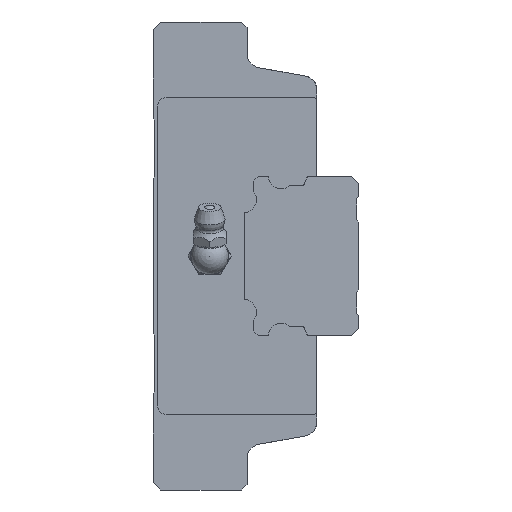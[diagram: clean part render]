
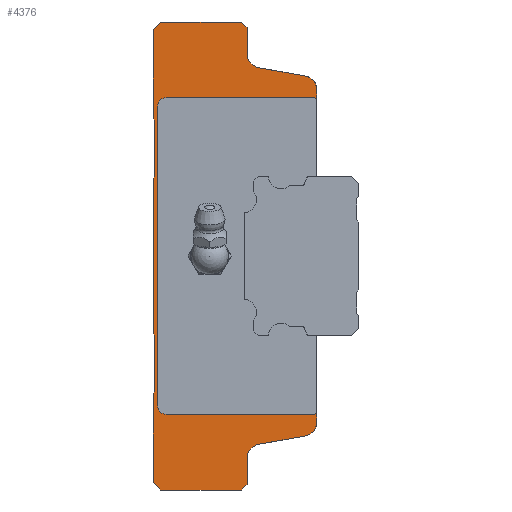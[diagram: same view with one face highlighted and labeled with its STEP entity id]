
A CAD part, left-side view. The second image highlights one B-rep face of the part: STEP entity #4376.
In plain terms, the highlighted planar face has unit normal (-1, 0, 0).
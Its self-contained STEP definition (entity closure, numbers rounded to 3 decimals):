
#190=CIRCLE('',#4688,3.);
#193=CIRCLE('',#4703,3.);
#211=CIRCLE('',#4730,3.);
#212=CIRCLE('',#4733,3.);
#258=CIRCLE('',#4806,1.8);
#259=CIRCLE('',#4807,1.8);
#1096=ORIENTED_EDGE('',*,*,#2092,.F.);
#1097=ORIENTED_EDGE('',*,*,#1923,.F.);
#1098=ORIENTED_EDGE('',*,*,#1919,.F.);
#1099=ORIENTED_EDGE('',*,*,#2035,.F.);
#1100=ORIENTED_EDGE('',*,*,#1916,.T.);
#1101=ORIENTED_EDGE('',*,*,#1835,.F.);
#1102=ORIENTED_EDGE('',*,*,#1832,.F.);
#1103=ORIENTED_EDGE('',*,*,#2026,.F.);
#1104=ORIENTED_EDGE('',*,*,#2014,.F.);
#1105=ORIENTED_EDGE('',*,*,#2083,.F.);
#1106=ORIENTED_EDGE('',*,*,#2080,.F.);
#1107=ORIENTED_EDGE('',*,*,#2077,.F.);
#1108=ORIENTED_EDGE('',*,*,#2074,.F.);
#1109=ORIENTED_EDGE('',*,*,#2071,.F.);
#1110=ORIENTED_EDGE('',*,*,#2068,.F.);
#1111=ORIENTED_EDGE('',*,*,#2065,.F.);
#1112=ORIENTED_EDGE('',*,*,#2062,.F.);
#1113=ORIENTED_EDGE('',*,*,#2059,.F.);
#1114=ORIENTED_EDGE('',*,*,#2056,.F.);
#1115=ORIENTED_EDGE('',*,*,#2049,.F.);
#1116=ORIENTED_EDGE('',*,*,#1811,.F.);
#1117=ORIENTED_EDGE('',*,*,#1808,.F.);
#1118=ORIENTED_EDGE('',*,*,#1891,.T.);
#1119=ORIENTED_EDGE('',*,*,#1881,.F.);
#1120=ORIENTED_EDGE('',*,*,#1866,.F.);
#1121=ORIENTED_EDGE('',*,*,#1939,.F.);
#1122=ORIENTED_EDGE('',*,*,#2093,.F.);
#1123=ORIENTED_EDGE('',*,*,#2094,.F.);
#1124=ORIENTED_EDGE('',*,*,#2095,.F.);
#1125=ORIENTED_EDGE('',*,*,#2096,.F.);
#1126=ORIENTED_EDGE('',*,*,#2097,.F.);
#1127=ORIENTED_EDGE('',*,*,#2098,.F.);
#1808=EDGE_CURVE('',#2389,#2387,#2813,.T.);
#1811=EDGE_CURVE('',#2387,#2391,#2816,.T.);
#1832=EDGE_CURVE('',#2411,#2409,#2829,.T.);
#1835=EDGE_CURVE('',#2409,#2413,#2832,.T.);
#1866=EDGE_CURVE('',#2431,#2432,#190,.T.);
#1881=EDGE_CURVE('',#2432,#2446,#2854,.T.);
#1891=EDGE_CURVE('',#2389,#2446,#193,.T.);
#1916=EDGE_CURVE('',#2471,#2413,#211,.T.);
#1919=EDGE_CURVE('',#2472,#2473,#212,.T.);
#1923=EDGE_CURVE('',#2473,#2476,#2863,.T.);
#1939=EDGE_CURVE('',#2487,#2431,#2876,.T.);
#2014=EDGE_CURVE('',#2558,#2559,#2913,.T.);
#2026=EDGE_CURVE('',#2559,#2411,#2925,.T.);
#2035=EDGE_CURVE('',#2471,#2472,#2934,.T.);
#2049=EDGE_CURVE('',#2391,#2580,#2947,.T.);
#2056=EDGE_CURVE('',#2580,#2584,#2954,.T.);
#2059=EDGE_CURVE('',#2584,#2586,#2957,.T.);
#2062=EDGE_CURVE('',#2586,#2588,#2960,.T.);
#2065=EDGE_CURVE('',#2588,#2590,#2963,.T.);
#2068=EDGE_CURVE('',#2590,#2592,#2966,.T.);
#2071=EDGE_CURVE('',#2592,#2594,#2969,.T.);
#2074=EDGE_CURVE('',#2594,#2596,#2972,.T.);
#2077=EDGE_CURVE('',#2596,#2598,#2975,.T.);
#2080=EDGE_CURVE('',#2598,#2600,#2978,.T.);
#2083=EDGE_CURVE('',#2600,#2558,#2981,.T.);
#2092=EDGE_CURVE('',#2476,#2608,#2988,.T.);
#2093=EDGE_CURVE('',#2609,#2487,#2989,.T.);
#2094=EDGE_CURVE('',#2610,#2609,#2990,.T.);
#2095=EDGE_CURVE('',#2611,#2610,#258,.F.);
#2096=EDGE_CURVE('',#2612,#2611,#2991,.T.);
#2097=EDGE_CURVE('',#2613,#2612,#259,.F.);
#2098=EDGE_CURVE('',#2608,#2613,#2992,.T.);
#2387=VERTEX_POINT('',#6642);
#2389=VERTEX_POINT('',#6646);
#2391=VERTEX_POINT('',#6651);
#2409=VERTEX_POINT('',#6711);
#2411=VERTEX_POINT('',#6715);
#2413=VERTEX_POINT('',#6720);
#2431=VERTEX_POINT('',#6804);
#2432=VERTEX_POINT('',#6806);
#2446=VERTEX_POINT('',#6869);
#2471=VERTEX_POINT('',#6959);
#2472=VERTEX_POINT('',#6964);
#2473=VERTEX_POINT('',#6966);
#2476=VERTEX_POINT('',#6975);
#2487=VERTEX_POINT('',#7002);
#2558=VERTEX_POINT('',#7152);
#2559=VERTEX_POINT('',#7153);
#2580=VERTEX_POINT('',#7217);
#2584=VERTEX_POINT('',#7229);
#2586=VERTEX_POINT('',#7235);
#2588=VERTEX_POINT('',#7241);
#2590=VERTEX_POINT('',#7247);
#2592=VERTEX_POINT('',#7253);
#2594=VERTEX_POINT('',#7259);
#2596=VERTEX_POINT('',#7265);
#2598=VERTEX_POINT('',#7271);
#2600=VERTEX_POINT('',#7277);
#2608=VERTEX_POINT('',#7300);
#2609=VERTEX_POINT('',#7302);
#2610=VERTEX_POINT('',#7304);
#2611=VERTEX_POINT('',#7306);
#2612=VERTEX_POINT('',#7308);
#2613=VERTEX_POINT('',#7310);
#2813=LINE('',#6647,#3195);
#2816=LINE('',#6653,#3198);
#2829=LINE('',#6716,#3211);
#2832=LINE('',#6722,#3214);
#2854=LINE('',#6868,#3236);
#2863=LINE('',#6974,#3245);
#2876=LINE('',#7003,#3258);
#2913=LINE('',#7151,#3295);
#2925=LINE('',#7174,#3307);
#2934=LINE('',#7190,#3316);
#2947=LINE('',#7216,#3329);
#2954=LINE('',#7228,#3336);
#2957=LINE('',#7234,#3339);
#2960=LINE('',#7240,#3342);
#2963=LINE('',#7246,#3345);
#2966=LINE('',#7252,#3348);
#2969=LINE('',#7258,#3351);
#2972=LINE('',#7264,#3354);
#2975=LINE('',#7270,#3357);
#2978=LINE('',#7276,#3360);
#2981=LINE('',#7282,#3363);
#2988=LINE('',#7299,#3370);
#2989=LINE('',#7301,#3371);
#2990=LINE('',#7303,#3372);
#2991=LINE('',#7307,#3373);
#2992=LINE('',#7311,#3374);
#3195=VECTOR('',#5335,1000.);
#3198=VECTOR('',#5340,1000.);
#3211=VECTOR('',#5369,1000.);
#3214=VECTOR('',#5374,1000.);
#3236=VECTOR('',#5452,1000.);
#3245=VECTOR('',#5547,1000.);
#3258=VECTOR('',#5568,1000.);
#3295=VECTOR('',#5687,1000.);
#3307=VECTOR('',#5701,1000.);
#3316=VECTOR('',#5716,1000.);
#3329=VECTOR('',#5739,1000.);
#3336=VECTOR('',#5748,1000.);
#3339=VECTOR('',#5753,1000.);
#3342=VECTOR('',#5758,1000.);
#3345=VECTOR('',#5763,1000.);
#3348=VECTOR('',#5768,1000.);
#3351=VECTOR('',#5773,1000.);
#3354=VECTOR('',#5778,1000.);
#3357=VECTOR('',#5783,1000.);
#3360=VECTOR('',#5788,1000.);
#3363=VECTOR('',#5793,1000.);
#3370=VECTOR('',#5808,1000.);
#3371=VECTOR('',#5809,1000.);
#3372=VECTOR('',#5810,1000.);
#3373=VECTOR('',#5813,1000.);
#3374=VECTOR('',#5816,1000.);
#3618=EDGE_LOOP('',(#1096,#1097,#1098,#1099,#1100,#1101,#1102,#1103,#1104,
#1105,#1106,#1107,#1108,#1109,#1110,#1111,#1112,#1113,#1114,#1115,#1116,
#1117,#1118,#1119,#1120,#1121,#1122,#1123,#1124,#1125,#1126,#1127));
#3943=FACE_BOUND('',#3618,.T.);
#4187=PLANE('',#4805);
#4376=ADVANCED_FACE('',(#3943),#4187,.F.);
#4688=AXIS2_PLACEMENT_3D('',#6805,#5431,#5432);
#4703=AXIS2_PLACEMENT_3D('',#6890,#5472,#5473);
#4730=AXIS2_PLACEMENT_3D('',#6958,#5528,#5529);
#4733=AXIS2_PLACEMENT_3D('',#6965,#5536,#5537);
#4805=AXIS2_PLACEMENT_3D('',#7298,#5806,#5807);
#4806=AXIS2_PLACEMENT_3D('',#7305,#5811,#5812);
#4807=AXIS2_PLACEMENT_3D('',#7309,#5814,#5815);
#5335=DIRECTION('',(0.,0.,-1.));
#5340=DIRECTION('',(0.,0.707,-0.707));
#5369=DIRECTION('',(0.,-0.707,-0.707));
#5374=DIRECTION('',(0.,0.,-1.));
#5431=DIRECTION('',(1.,0.,0.));
#5432=DIRECTION('',(0.,0.,-1.));
#5452=DIRECTION('',(0.,0.984,-0.177));
#5472=DIRECTION('',(1.,0.,0.));
#5473=DIRECTION('',(0.,0.,-1.));
#5528=DIRECTION('',(1.,0.,0.));
#5529=DIRECTION('',(0.,0.,-1.));
#5536=DIRECTION('',(1.,0.,0.));
#5537=DIRECTION('',(0.,0.,-1.));
#5547=DIRECTION('',(0.,0.,-1.));
#5568=DIRECTION('',(0.,0.,-1.));
#5687=DIRECTION('',(0.,-0.707,0.707));
#5701=DIRECTION('',(0.,-1.,0.));
#5716=DIRECTION('',(0.,-0.984,-0.177));
#5739=DIRECTION('',(0.,1.,0.));
#5748=DIRECTION('',(0.,0.707,0.707));
#5753=DIRECTION('',(0.,0.,1.));
#5758=DIRECTION('',(0.,-0.717,0.697));
#5763=DIRECTION('',(0.,0.,1.));
#5768=DIRECTION('',(0.,0.717,0.697));
#5773=DIRECTION('',(0.,0.,1.));
#5778=DIRECTION('',(0.,-0.717,0.697));
#5783=DIRECTION('',(0.,0.,1.));
#5788=DIRECTION('',(0.,0.717,0.697));
#5793=DIRECTION('',(0.,0.,1.));
#5806=DIRECTION('',(1.,0.,0.));
#5807=DIRECTION('',(0.,0.,-1.));
#5808=DIRECTION('',(0.,0.707,0.707));
#5809=DIRECTION('',(0.,-0.707,0.707));
#5810=DIRECTION('',(0.,-1.,0.));
#5811=DIRECTION('',(1.,0.,0.));
#5812=DIRECTION('',(0.,0.,-1.));
#5813=DIRECTION('',(0.,0.,-1.));
#5814=DIRECTION('',(1.,0.,0.));
#5815=DIRECTION('',(0.,0.,-1.));
#5816=DIRECTION('',(0.,1.,0.));
#6642=CARTESIAN_POINT('',(-52.25,14.9,-48.8));
#6646=CARTESIAN_POINT('',(-52.25,14.9,-43.2));
#6647=CARTESIAN_POINT('',(-52.25,14.9,-43.2));
#6651=CARTESIAN_POINT('',(-52.25,16.1,-50.));
#6653=CARTESIAN_POINT('',(-52.25,14.9,-48.8));
#6711=CARTESIAN_POINT('',(-52.25,14.9,48.8));
#6715=CARTESIAN_POINT('',(-52.25,16.1,50.));
#6716=CARTESIAN_POINT('',(-52.25,16.1,50.));
#6720=CARTESIAN_POINT('',(-52.25,14.9,43.2));
#6722=CARTESIAN_POINT('',(-52.25,14.9,48.8));
#6804=CARTESIAN_POINT('',(-52.25,0.,-35.5));
#6805=CARTESIAN_POINT('',(-52.25,3.,-35.5));
#6806=CARTESIAN_POINT('',(-52.25,2.468,-38.452));
#6868=CARTESIAN_POINT('',(-52.25,2.468,-38.452));
#6869=CARTESIAN_POINT('',(-52.25,12.432,-40.248));
#6890=CARTESIAN_POINT('',(-52.25,11.9,-43.2));
#6958=CARTESIAN_POINT('',(-52.25,11.9,43.2));
#6959=CARTESIAN_POINT('',(-52.25,12.432,40.248));
#6964=CARTESIAN_POINT('',(-52.25,2.468,38.452));
#6965=CARTESIAN_POINT('',(-52.25,3.,35.5));
#6966=CARTESIAN_POINT('',(-52.25,0.,35.5));
#6974=CARTESIAN_POINT('',(-52.25,0.,35.5));
#6975=CARTESIAN_POINT('',(-52.25,0.,33.3));
#7002=CARTESIAN_POINT('',(-52.25,0.,-33.3));
#7003=CARTESIAN_POINT('',(-52.25,0.,35.5));
#7151=CARTESIAN_POINT('',(-52.25,35.,48.4));
#7152=CARTESIAN_POINT('',(-52.25,35.,48.4));
#7153=CARTESIAN_POINT('',(-52.25,33.4,50.));
#7174=CARTESIAN_POINT('',(-52.25,33.4,50.));
#7190=CARTESIAN_POINT('',(-52.25,12.432,40.248));
#7216=CARTESIAN_POINT('',(-52.25,16.1,-50.));
#7217=CARTESIAN_POINT('',(-52.25,33.4,-50.));
#7228=CARTESIAN_POINT('',(-52.25,33.4,-50.));
#7229=CARTESIAN_POINT('',(-52.25,35.,-48.4));
#7234=CARTESIAN_POINT('',(-52.25,35.,-48.4));
#7235=CARTESIAN_POINT('',(-52.25,35.,-29.4));
#7240=CARTESIAN_POINT('',(-52.25,35.,-29.4));
#7241=CARTESIAN_POINT('',(-52.25,34.6,-29.011));
#7246=CARTESIAN_POINT('',(-52.25,34.6,-29.011));
#7247=CARTESIAN_POINT('',(-52.25,34.6,-16.989));
#7252=CARTESIAN_POINT('',(-52.25,34.6,-16.989));
#7253=CARTESIAN_POINT('',(-52.25,35.,-16.6));
#7258=CARTESIAN_POINT('',(-52.25,35.,-16.6));
#7259=CARTESIAN_POINT('',(-52.25,35.,16.6));
#7264=CARTESIAN_POINT('',(-52.25,35.,16.6));
#7265=CARTESIAN_POINT('',(-52.25,34.6,16.989));
#7270=CARTESIAN_POINT('',(-52.25,34.6,16.989));
#7271=CARTESIAN_POINT('',(-52.25,34.6,29.011));
#7276=CARTESIAN_POINT('',(-52.25,34.6,29.011));
#7277=CARTESIAN_POINT('',(-52.25,35.,29.4));
#7282=CARTESIAN_POINT('',(-52.25,35.,29.4));
#7298=CARTESIAN_POINT('',(-52.25,11.9,43.2));
#7299=CARTESIAN_POINT('',(-52.25,10.9,44.2));
#7300=CARTESIAN_POINT('',(-52.25,0.5,33.8));
#7301=CARTESIAN_POINT('',(-52.25,-32.3,-1.));
#7302=CARTESIAN_POINT('',(-52.25,0.5,-33.8));
#7303=CARTESIAN_POINT('',(-52.25,11.9,-33.8));
#7304=CARTESIAN_POINT('',(-52.25,32.2,-33.8));
#7305=CARTESIAN_POINT('',(-52.25,32.2,-32.));
#7306=CARTESIAN_POINT('',(-52.25,34.,-32.));
#7307=CARTESIAN_POINT('',(-52.25,34.,43.2));
#7308=CARTESIAN_POINT('',(-52.25,34.,32.));
#7309=CARTESIAN_POINT('',(-52.25,32.2,32.));
#7310=CARTESIAN_POINT('',(-52.25,32.2,33.8));
#7311=CARTESIAN_POINT('',(-52.25,11.9,33.8));
